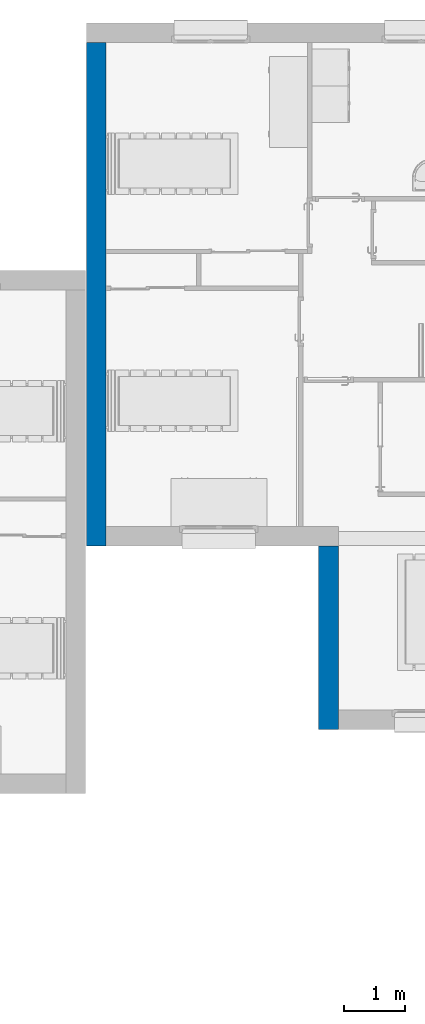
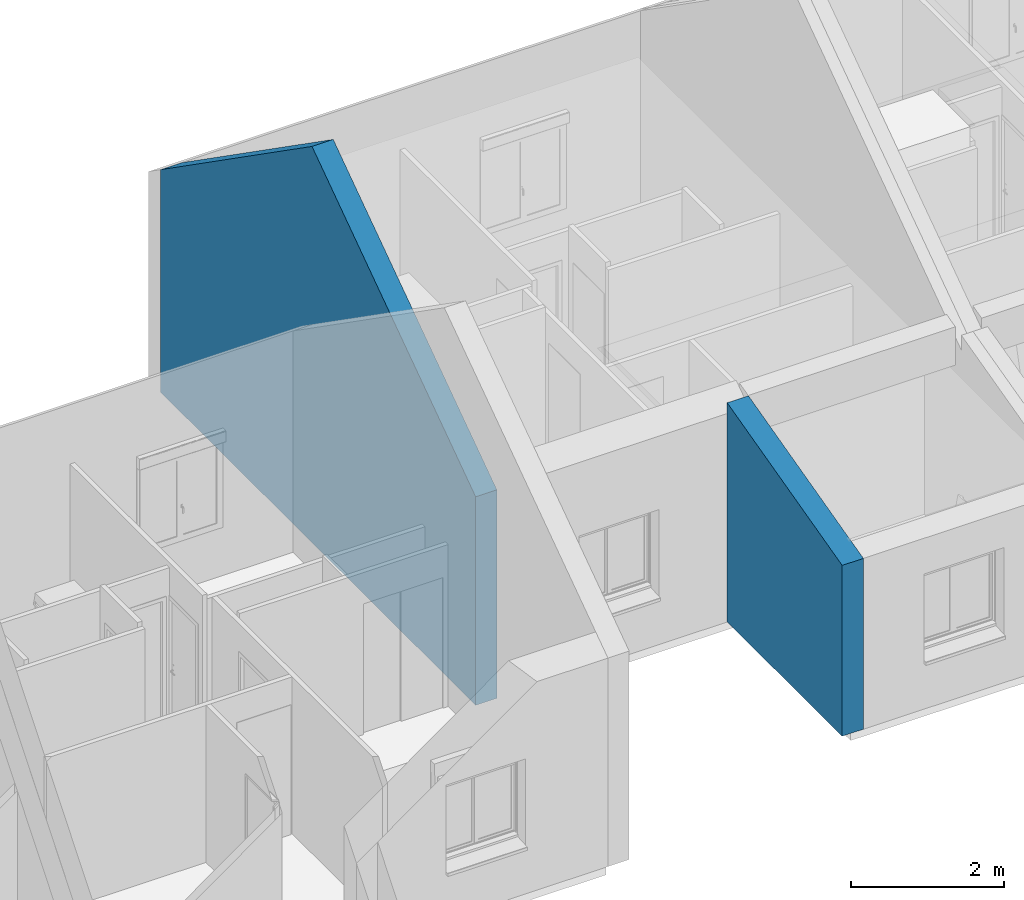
# One storey, part 23 of 50: 2 walls.
"""IFC2X3 building model written with IfcOpenShell, lengths in metres."""

from ifc_helpers import new_model, entity, si_unit, converted_unit, derived_unit, direction, frame, frame_2d, origin, place, context, subcontext, project, spatial, polyline, rectangle, extrude, clip, bounded_halfspace, material, layer, layer_set, layer_usage, type_object, element, save


model = new_model("IFC2X3")

# Units and contexts
model_context = context("Model", 3, precision=1e-05, world=origin(), true_north=direction((6.12303176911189e-17, 1.0)))
context_of_model = context(None, 3, precision=1e-05, world=origin(), true_north=direction((6.12303176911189e-17, 1.0)))
body_context = subcontext(model_context, "Body", "Model", "MODEL_VIEW")
ifc_project = project(units=[si_unit("LENGTHUNIT", "METRE"), si_unit("AREAUNIT", "SQUARE_METRE"), si_unit("VOLUMEUNIT", "CUBIC_METRE"), converted_unit("PLANEANGLEUNIT", "DEGREE", entity("IfcRatioMeasure", 0.0174532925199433), si_unit("PLANEANGLEUNIT", "RADIAN"), dimensions=[0, 0, 0, 0, 0, 0, 0]), si_unit("MASSUNIT", "GRAM", prefix="KILO"), si_unit("TIMEUNIT", "SECOND"), si_unit("FREQUENCYUNIT", "HERTZ"), si_unit("THERMODYNAMICTEMPERATUREUNIT", "DEGREE_CELSIUS"), derived_unit("THERMALTRANSMITTANCEUNIT", [(si_unit("MASSUNIT", "GRAM", prefix="KILO"), 1), (si_unit("THERMODYNAMICTEMPERATUREUNIT", "KELVIN"), -1), (si_unit("TIMEUNIT", "SECOND"), -3)]), derived_unit("VOLUMETRICFLOWRATEUNIT", [(si_unit("LENGTHUNIT", "METRE"), 3), (si_unit("TIMEUNIT", "SECOND"), -1)]), si_unit("ELECTRICCURRENTUNIT", "AMPERE"), si_unit("ELECTRICVOLTAGEUNIT", "VOLT"), si_unit("POWERUNIT", "WATT"), si_unit("FORCEUNIT", "NEWTON", prefix="KILO"), si_unit("ILLUMINANCEUNIT", "LUX"), si_unit("LUMINOUSFLUXUNIT", "LUMEN"), si_unit("LUMINOUSINTENSITYUNIT", "CANDELA"), si_unit("PRESSUREUNIT", "PASCAL")], contexts=[model_context, context_of_model])

# Site, building, storey
site_placement = place(None, origin())
site = spatial("IfcSite", under=ifc_project, at=site_placement, Name="Surface", CompositionType="ELEMENT")
building_placement = place(site_placement, origin())
building = spatial("IfcBuilding", under=site, at=building_placement, CompositionType="ELEMENT")
storey_placement = place(building_placement, frame((0.0, 0.0, 2.82)))
storey = spatial("IfcBuildingStorey", under=building, at=storey_placement, Name="ETAGE", CompositionType="ELEMENT", Elevation=2.82)

# Walls
ifc_material_1 = material(Name="Enduit blanc cassé2")
ifc_layer_1 = layer(ifc_material_1, 0.02)
ifc_material_2 = material(Name="Parpaing")
ifc_layer_2 = layer(ifc_material_2, 0.2)
ifc_material_3 = material(Name="Isolant")
ifc_layer_3 = layer(ifc_material_3, 0.1)
ifc_layer_set_1 = layer_set([ifc_layer_1, ifc_layer_2, ifc_layer_3], Name="Mur de base:Ext. Parpaing 20 + Isolant 10 enduit blanc cassé")
ifc_layer_usage_1 = layer_usage(ifc_layer_set_1, "AXIS2", "POSITIVE", -0.16)
wall_type_1 = type_object("IfcWallType", Name="Mur de base:Ext. Parpaing 20 + Isolant 10 enduit blanc cassé", PredefinedType="STANDARD", material=ifc_layer_set_1)
wall_1_placement = place(storey_placement, frame((76.462756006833, 92.1475239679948, 0.0), z_axis=(0.0, 0.0, 1.0), x_axis=(0.0, -1.0, 0.0)))
element("IfcWallStandardCase", 1, at=wall_1_placement, inside=storey, type_object=wall_type_1, material=ifc_layer_usage_1, Name="Mur de base:Ext. Parpaing 20 + Isolant 10 enduit blanc cassé", ObjectType="Mur de base:Ext. Parpaing 20 + Isolant 10 enduit blanc cassé", context=body_context, shape_type="Clipping", body=[
    clip(clip(extrude(rectangle(XDim=8.22, YDim=0.319999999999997, at=frame_2d((4.11, -5.55111512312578e-16), x_axis=(-1.0, 0.0))), origin(), (0.0, 0.0, 1.0), 6.30988618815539), bounded_halfspace(frame((0.0, -0.159999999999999, 3.5440664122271), z_axis=(-0.573576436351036, 0.0, 0.819152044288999), x_axis=(0.0, -1.0, 0.0)), False, frame((0.0, -0.159999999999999, 3.5440664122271)), polyline([(0.0, 0.0), (3.94999999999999, 0.0), (3.94999999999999, 0.319999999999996), (0.0, 0.319999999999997), (0.0, 0.0)]))), bounded_halfspace(frame((3.94999999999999, -0.16, 6.30988618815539), z_axis=(0.573576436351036, 0.0, 0.819152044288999), x_axis=(0.0, 1.0, 0.0)), False, frame((3.94999999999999, -0.16, 6.30988618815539)), polyline([(0.0, 0.0), (4.27000000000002, 0.0), (4.27000000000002, 0.319999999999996), (3.95000000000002, 0.319999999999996), (0.0, 0.319999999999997), (0.0, 0.0)]))),
])
ifc_material_4 = material(Name="Enduit  gris")
ifc_layer_4 = layer(ifc_material_4, 0.02)
ifc_layer_5 = layer(ifc_material_2, 0.2)
ifc_layer_6 = layer(ifc_material_3, 0.1)
ifc_layer_set_2 = layer_set([ifc_layer_4, ifc_layer_5, ifc_layer_6], Name="Mur de base:Ext. Parpaing 20 + Isolant 10 enduit gris")
ifc_layer_usage_2 = layer_usage(ifc_layer_set_2, "AXIS2", "POSITIVE", -0.16)
wall_type_2 = type_object("IfcWallType", Name="Mur de base:Ext. Parpaing 20 + Isolant 10 enduit gris", PredefinedType="STANDARD", material=ifc_layer_set_2)
wall_2_placement = place(storey_placement, frame((80.2510189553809, 83.9275239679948, 0.0), z_axis=(0.0, 0.0, 1.0), x_axis=(0.0, -1.0, 0.0)))
element("IfcWallStandardCase", 2, at=wall_2_placement, inside=storey, type_object=wall_type_2, material=ifc_layer_usage_2, Name="Mur de base:Ext. Parpaing 20 + Isolant 10 enduit gris", ObjectType="Mur de base:Ext. Parpaing 20 + Isolant 10 enduit gris", context=body_context, shape_type="Clipping", body=[
    clip(extrude(rectangle(XDim=3.00000000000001, YDim=0.319999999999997, at=frame_2d((1.50000000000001, 0.0), x_axis=(-1.0, 0.0))), origin(), (0.0, 0.0, 1.0), 3.49084668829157), bounded_halfspace(frame((0.0, -0.159999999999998, 3.49084668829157), z_axis=(0.248864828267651, 0.0, 0.968538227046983), x_axis=(0.0, 1.0, 0.0)), False, frame((0.0, -0.159999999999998, 3.49084668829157)), polyline([(0.0, 0.0), (3.0, 0.0), (3.0, 0.319999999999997), (2.68000000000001, 0.319999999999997), (0.0, 0.319999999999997), (0.0, 0.0)]))),
])

save(model, "model.ifc")
